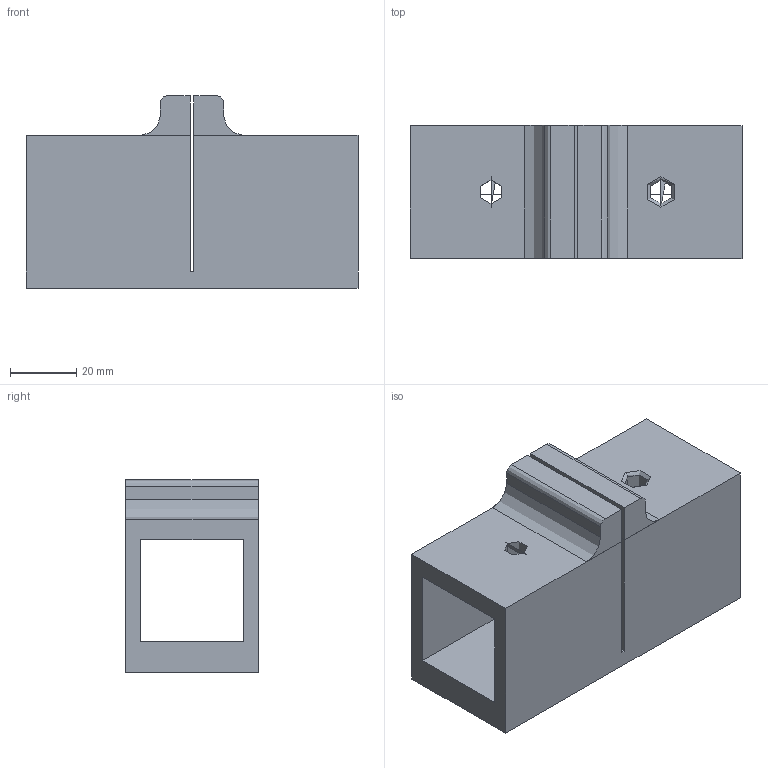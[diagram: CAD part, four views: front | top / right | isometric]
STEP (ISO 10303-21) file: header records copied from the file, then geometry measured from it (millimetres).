
FILE_DESCRIPTION(/* description */ (''),/* implementation_level */ '2;1');
FILE_NAME(/* name */ 'Sägehilfe für Aluprofil mit Nutenstein',/* time_stamp */ '2026-10-11T17:07:13+02:00',/* author */ (''),/* organization */ (''),/* preprocessor_version */ 'ST-DEVELOPER v19.2',/* originating_system */ 'Rhino 8.35',/* authorisation */ '');
FILE_SCHEMA (('CONFIG_CONTROL_DESIGN'));
Length unit declared in the file: millimetre
Products named in the file (1): Document
Bounding box: 100 x 40 x 57.88 mm (x, y, z)
Volume: 96140.1 mm3; surface area: 37564.5 mm2
Topology: 3 solids, 10 shells, 60 faces, 172 edges, 117 vertices
Faces by surface type: plane 30, cylinder 16, bspline 14
Entity records: 3013 total; most frequent: CARTESIAN_POINT 1668, ORIENTED_EDGE 288, EDGE_CURVE 158, DIRECTION 158, VERTEX_POINT 106, AXIS2_PLACEMENT_3D 100, B_SPLINE_CURVE_WITH_KNOTS 76, EDGE_LOOP 72
